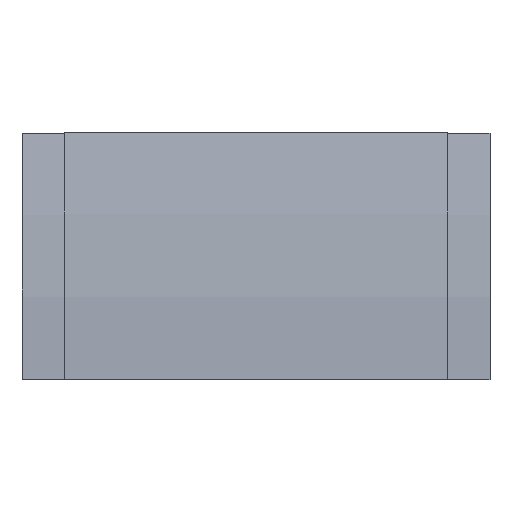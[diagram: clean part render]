
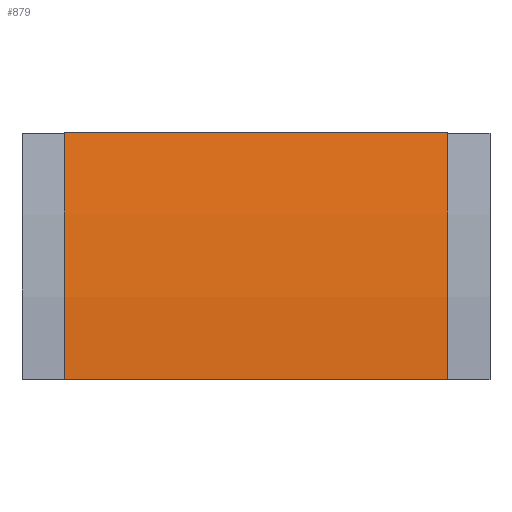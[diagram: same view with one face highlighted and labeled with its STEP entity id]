
A CAD part, front view. The second image highlights one B-rep face of the part: STEP entity #879.
In plain terms, the highlighted cylindrical face has radius 568 mm (diameter 1136 mm), a partial arc.
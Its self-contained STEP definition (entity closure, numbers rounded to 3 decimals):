
#28 = AXIS2_PLACEMENT_3D ( 'NONE', #692, #688, #689 ) ;
#47 = AXIS2_PLACEMENT_3D ( 'NONE', #773, #774, #775 ) ;
#48 = AXIS2_PLACEMENT_3D ( 'NONE', #781, #782, #783 ) ;
#124 = CARTESIAN_POINT ( 'NONE',  ( 95.25, -54.536, 122.938 ) ) ;
#135 = CARTESIAN_POINT ( 'NONE',  ( -95.25, -54.536, 122.938 ) ) ;
#319 = ORIENTED_EDGE ( 'NONE', *, *, #912, .T. ) ;
#320 = ORIENTED_EDGE ( 'NONE', *, *, #907, .T. ) ;
#321 = ORIENTED_EDGE ( 'NONE', *, *, #911, .F. ) ;
#322 = ORIENTED_EDGE ( 'NONE', *, *, #910, .F. ) ;
#406 = EDGE_LOOP ( 'NONE', ( #322, #321, #320, #319 ) ) ;
#436 = VERTEX_POINT ( 'NONE', #937 ) ;
#442 = VERTEX_POINT ( 'NONE', #943 ) ;
#475 = VERTEX_POINT ( 'NONE', #124 ) ;
#477 = VERTEX_POINT ( 'NONE', #135 ) ;
#602 = FACE_OUTER_BOUND ( 'NONE', #406, .T. ) ;
#605 = CYLINDRICAL_SURFACE ( 'NONE', #28, 568. ) ;
#643 = CIRCLE ( 'NONE', #47, 568. ) ;
#645 = LINE ( 'NONE', #780, #652 ) ;
#648 = CIRCLE ( 'NONE', #48, 568. ) ;
#651 = LINE ( 'NONE', #784, #654 ) ;
#652 = VECTOR ( 'NONE', #771, 1000. ) ;
#654 = VECTOR ( 'NONE', #785, 1000. ) ;
#688 = DIRECTION ( 'NONE',  ( 1., 0., 0. ) ) ;
#689 = DIRECTION ( 'NONE',  ( 0., 0., -1. ) ) ;
#692 = CARTESIAN_POINT ( 'NONE',  ( 0., 500., 0. ) ) ;
#771 = DIRECTION ( 'NONE',  ( 1., 0., 0. ) ) ;
#773 = CARTESIAN_POINT ( 'NONE',  ( -95.25, 500., 0. ) ) ;
#774 = DIRECTION ( 'NONE',  ( 1., 0., 0. ) ) ;
#775 = DIRECTION ( 'NONE',  ( 0., 0., -1. ) ) ;
#780 = CARTESIAN_POINT ( 'NONE',  ( -95.25, -54.536, 122.938 ) ) ;
#781 = CARTESIAN_POINT ( 'NONE',  ( 95.25, 500., 0. ) ) ;
#782 = DIRECTION ( 'NONE',  ( 1., 0., 0. ) ) ;
#783 = DIRECTION ( 'NONE',  ( 0., 0., -1. ) ) ;
#784 = CARTESIAN_POINT ( 'NONE',  ( -95.25, -68., 0. ) ) ;
#785 = DIRECTION ( 'NONE',  ( 1., 0., 0. ) ) ;
#879 = ADVANCED_FACE ( 'NONE', ( #602 ), #605, .T. ) ;
#907 = EDGE_CURVE ( 'NONE', #477, #442, #643, .T. ) ;
#910 = EDGE_CURVE ( 'NONE', #475, #436, #648, .T. ) ;
#911 = EDGE_CURVE ( 'NONE', #477, #475, #645, .T. ) ;
#912 = EDGE_CURVE ( 'NONE', #442, #436, #651, .T. ) ;
#937 = CARTESIAN_POINT ( 'NONE',  ( 95.25, -68., 0. ) ) ;
#943 = CARTESIAN_POINT ( 'NONE',  ( -95.25, -68., 0. ) ) ;
